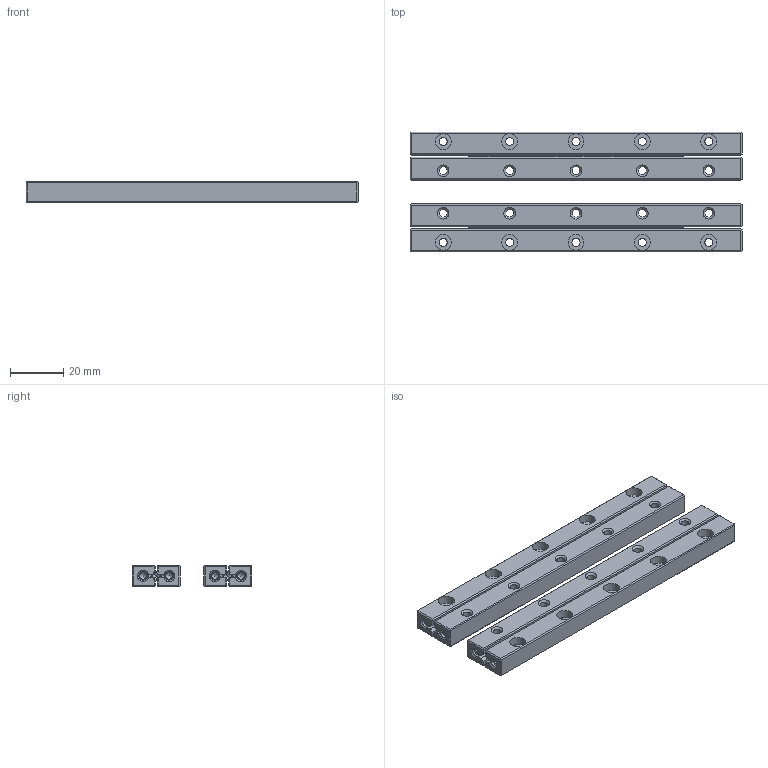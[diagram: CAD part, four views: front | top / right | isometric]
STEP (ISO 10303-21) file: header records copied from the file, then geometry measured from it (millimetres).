
FILE_DESCRIPTION(/* description */ (''),/* implementation_level */ '2;1');
FILE_NAME(/* name */ 'Set RSDE-3125x22KRE-ACC.stp',/* time_stamp */ '2018-12-19T12:58:06+01:00',/* author */ (''),/* organization */ (''),/* preprocessor_version */ 'ST-DEVELOPER v16.7',/* originating_system */ 'SIEMENS PLM Software NX 12.0',/* authorisation */ '');
FILE_SCHEMA (('AUTOMOTIVE_DESIGN { 1 0 10303 214 3 1 1 1 }'));
Products named in the file (1): rhn11EC67B6z1tc
Bounding box: 125 x 45 x 8 mm (x, y, z)
Volume: 30278.5 mm3; surface area: 26008.8 mm2
Topology: 60 solids, 60 shells, 3244 faces, 9322 edges, 6170 vertices
Faces by surface type: plane 1660, cylinder 1004, torus 456, extrusion 72, cone 52
Full cylindrical faces by diameter (mm): 0.45 x192, 1 x8, 2 x44, 2.459 x8, 3 x44, 3.013 x20, 3.2 x8, 6 x20
Entity records: 108904 total; most frequent: CARTESIAN_POINT 23929, DIRECTION 17602, ORIENTED_EDGE 17056, EDGE_CURVE 8528, AXIS2_PLACEMENT_3D 6261, VERTEX_POINT 5864, VECTOR 5080, LINE 5008
